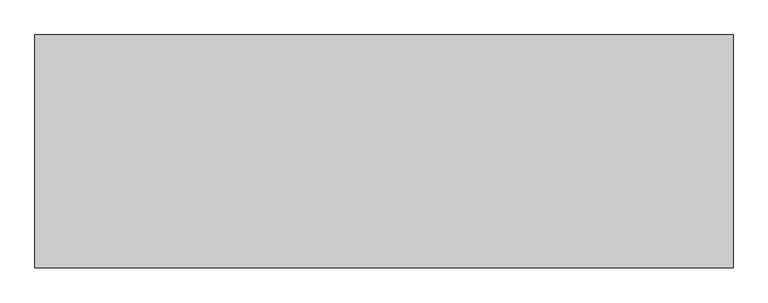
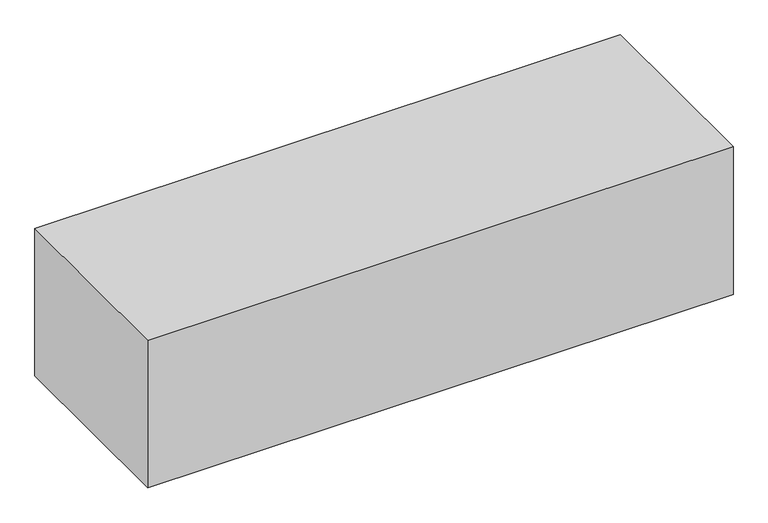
"""IFC4 building model written with IfcOpenShell, lengths in millimetres: geographic element geometry, r 低木密植 : 低木密植."""

from ifc_helpers import new_model, si_unit, origin, origin_with_axes, place, context, project, spatial, polyline, outline, extrude, source, transform, mapped, element, save


def geographic_element_4fc74e1d(model_context):
    return source(origin(), model_context, "Body", "SweptSolid", [
        extrude(outline(polyline([(0.0, 0.0), (0.0, 500.0), (1500.0, 500.0), (1500.0, 0.0), (0.0, 0.0)])), origin_with_axes(), (0.0, 0.0, 1.0), 400.0),
    ])


if __name__ == "__main__":
    model = new_model("IFC4")
    model_context = context("Model", 3, world=origin())
    ifc_project = project(units=[si_unit("LENGTHUNIT", "METRE", prefix="MILLI")], contexts=[model_context])
    site = spatial("IfcSite", under=ifc_project)
    building = spatial("IfcBuilding", under=site)
    placement = place(None, origin())
    geographic_element_shape = geographic_element_4fc74e1d(model_context)
    element("IfcGeographicElement", 1, ObjectType="r 低木密植 : 低木密植", at=placement, inside=building, context=model_context, shape_type="MappedRepresentation", body=[
        mapped(geographic_element_shape, transform((0.0, 0.0, 0.0), x_axis=(1.0, 0.0, 0.0), y_axis=(0.0, 1.0, 0.0), z_axis=(0.0, 0.0, 1.0))),
    ])
    save(model, "model.ifc")
